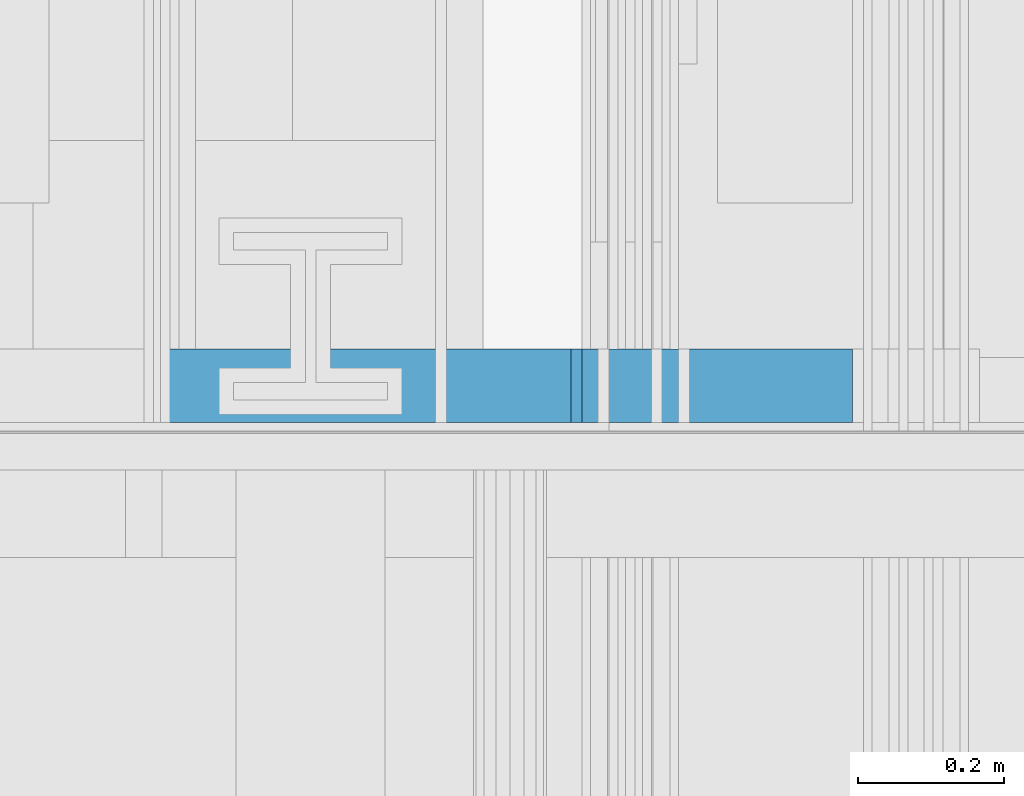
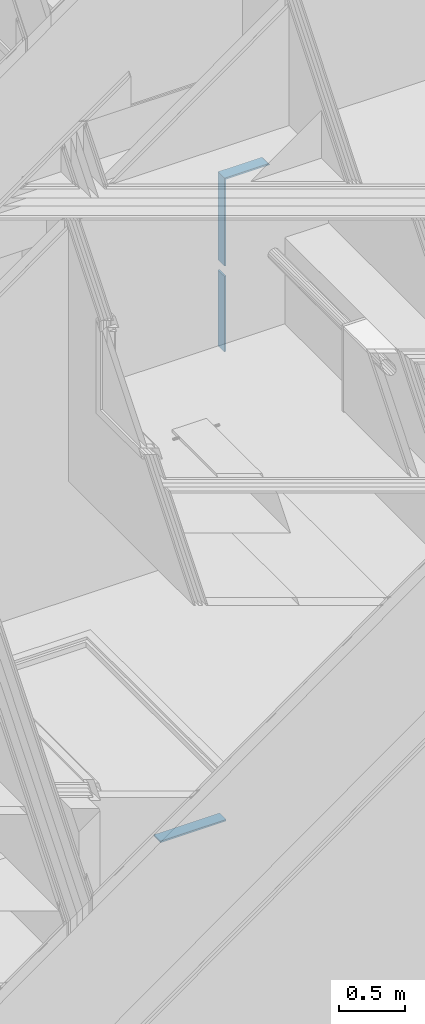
# One storey, part 223 of 583: 4 building element parts, 3 elements without a shape of their own.
"""IFC2X3 building model written with IfcOpenShell, lengths in metres."""

from ifc_helpers import new_model, entity, si_unit, converted_unit, derived_unit, money_unit, direction, frame, frame_2d, origin_with_axes, place, context, subcontext, project, spatial, polyline, rectangle, outline, extrude, material, type_object, element, aggregate, save


model = new_model("IFC2X3")

# Units and contexts
model_context = context("Model", 3, precision=1e-05, world=origin_with_axes(), true_north=direction((0.0, 1.0)))
body_context = subcontext(model_context, "Body", "Model", "MODEL_VIEW", scale=1.0)
ifc_project = project(units=[si_unit("LENGTHUNIT", "METRE"), si_unit("AREAUNIT", "SQUARE_METRE"), si_unit("VOLUMEUNIT", "CUBIC_METRE"), si_unit("ABSORBEDDOSEUNIT", "GRAY"), si_unit("AMOUNTOFSUBSTANCEUNIT", "MOLE"), si_unit("DOSEEQUIVALENTUNIT", "SIEVERT"), si_unit("ELECTRICCAPACITANCEUNIT", "FARAD"), si_unit("ELECTRICCHARGEUNIT", "COULOMB"), si_unit("ELECTRICCONDUCTANCEUNIT", "SIEMENS"), si_unit("ELECTRICCURRENTUNIT", "AMPERE"), si_unit("ELECTRICRESISTANCEUNIT", "OHM"), si_unit("ELECTRICVOLTAGEUNIT", "VOLT"), si_unit("ENERGYUNIT", "JOULE"), si_unit("FORCEUNIT", "NEWTON"), si_unit("FREQUENCYUNIT", "HERTZ"), si_unit("ILLUMINANCEUNIT", "LUX"), si_unit("INDUCTANCEUNIT", "HENRY"), si_unit("LUMINOUSFLUXUNIT", "LUMEN"), si_unit("LUMINOUSINTENSITYUNIT", "CANDELA"), si_unit("MAGNETICFLUXDENSITYUNIT", "TESLA"), si_unit("MAGNETICFLUXUNIT", "WEBER"), si_unit("MASSUNIT", "GRAM"), converted_unit("PLANEANGLEUNIT", "degree", entity("IfcReal", 0.0174532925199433), si_unit("PLANEANGLEUNIT", "RADIAN"), dimensions=[0, 0, 0, 0, 0, 0, 0]), si_unit("POWERUNIT", "WATT"), si_unit("PRESSUREUNIT", "PASCAL"), si_unit("RADIOACTIVITYUNIT", "BECQUEREL"), si_unit("SOLIDANGLEUNIT", "STERADIAN"), si_unit("THERMODYNAMICTEMPERATUREUNIT", "KELVIN"), si_unit("TIMEUNIT", "SECOND"), derived_unit("ACCELERATIONUNIT", [(si_unit("LENGTHUNIT", "METRE"), 1), (si_unit("TIMEUNIT", "SECOND"), -2)]), derived_unit("ANGULARVELOCITYUNIT", [(converted_unit("PLANEANGLEUNIT", "degree", entity("IfcReal", 0.0174532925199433), si_unit("PLANEANGLEUNIT", "RADIAN"), dimensions=[0, 0, 0, 0, 0, 0, 0]), 1), (si_unit("TIMEUNIT", "SECOND"), -1)]), derived_unit("CURVATUREUNIT", [(converted_unit("PLANEANGLEUNIT", "degree", entity("IfcReal", 0.0174532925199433), si_unit("PLANEANGLEUNIT", "RADIAN"), dimensions=[0, 0, 0, 0, 0, 0, 0]), 1), (si_unit("LENGTHUNIT", "METRE"), -1)]), derived_unit("DYNAMICVISCOSITYUNIT", [(si_unit("PRESSUREUNIT", "PASCAL"), 1), (si_unit("TIMEUNIT", "SECOND"), 1)]), derived_unit("HEATFLUXDENSITYUNIT", [(si_unit("POWERUNIT", "WATT"), 1), (si_unit("LENGTHUNIT", "METRE"), -2)]), derived_unit("HEATINGVALUEUNIT", [(si_unit("ENERGYUNIT", "JOULE"), 1), (si_unit("MASSUNIT", "GRAM"), -1)]), derived_unit("INTEGERCOUNTRATEUNIT", [(si_unit("TIMEUNIT", "SECOND"), -1)]), derived_unit("IONCONCENTRATIONUNIT", [(si_unit("MASSUNIT", "GRAM"), 1), (si_unit("VOLUMEUNIT", "CUBIC_METRE"), -1)]), derived_unit("ISOTHERMALMOISTURECAPACITYUNIT", [(si_unit("VOLUMEUNIT", "CUBIC_METRE"), 1), (si_unit("MASSUNIT", "GRAM"), -1)]), derived_unit("KINEMATICVISCOSITYUNIT", [(si_unit("AREAUNIT", "SQUARE_METRE"), 1), (si_unit("TIMEUNIT", "SECOND"), -1)]), derived_unit("LINEARFORCEUNIT", [(si_unit("FORCEUNIT", "NEWTON"), 1), (si_unit("LENGTHUNIT", "METRE"), -1)]), derived_unit("LINEARMOMENTUNIT", [(si_unit("FORCEUNIT", "NEWTON"), 1), (si_unit("LENGTHUNIT", "METRE"), -1)]), derived_unit("LINEARSTIFFNESSUNIT", [(si_unit("FORCEUNIT", "NEWTON"), 1), (si_unit("LENGTHUNIT", "METRE"), -1)]), derived_unit("LINEARVELOCITYUNIT", [(si_unit("LENGTHUNIT", "METRE"), 1), (si_unit("TIMEUNIT", "SECOND"), -1)]), derived_unit("LUMINOUSINTENSITYDISTRIBUTIONUNIT", [(si_unit("LUMINOUSINTENSITYUNIT", "CANDELA"), 1), (si_unit("LUMINOUSFLUXUNIT", "LUMEN"), -1)]), derived_unit("MASSDENSITYUNIT", [(si_unit("MASSUNIT", "GRAM"), 1), (si_unit("VOLUMEUNIT", "CUBIC_METRE"), -1)]), derived_unit("MASSFLOWRATEUNIT", [(si_unit("MASSUNIT", "GRAM"), 1), (si_unit("TIMEUNIT", "SECOND"), -1)]), derived_unit("MASSPERLENGTHUNIT", [(si_unit("MASSUNIT", "GRAM"), 1), (si_unit("LENGTHUNIT", "METRE"), -1)]), derived_unit("MODULUSOFELASTICITYUNIT", [(si_unit("FORCEUNIT", "NEWTON"), 1), (si_unit("AREAUNIT", "SQUARE_METRE"), -1)]), derived_unit("MODULUSOFLINEARSUBGRADEREACTIONUNIT", [(si_unit("FORCEUNIT", "NEWTON"), 1), (si_unit("LENGTHUNIT", "METRE"), -2)]), derived_unit("MODULUSOFROTATIONALSUBGRADEREACTIONUNIT", [(si_unit("FORCEUNIT", "NEWTON"), 1), (si_unit("LENGTHUNIT", "METRE"), 1)]), derived_unit("MODULUSOFSUBGRADEREACTIONUNIT", [(si_unit("FORCEUNIT", "NEWTON"), 1), (si_unit("VOLUMEUNIT", "CUBIC_METRE"), -1)]), derived_unit("MOISTUREDIFFUSIVITYUNIT", [(si_unit("VOLUMEUNIT", "CUBIC_METRE"), 1), (si_unit("TIMEUNIT", "SECOND"), -1)]), derived_unit("MOLECULARWEIGHTUNIT", [(si_unit("MASSUNIT", "GRAM"), 1), (si_unit("AMOUNTOFSUBSTANCEUNIT", "MOLE"), -1)]), derived_unit("PLANARFORCEUNIT", [(si_unit("FORCEUNIT", "NEWTON"), 1), (si_unit("LENGTHUNIT", "METRE"), -2)]), derived_unit("ROTATIONALFREQUENCYUNIT", [(si_unit("TIMEUNIT", "SECOND"), -1)]), derived_unit("ROTATIONALMASSUNIT", [(si_unit("MASSUNIT", "GRAM"), 1), (si_unit("LENGTHUNIT", "METRE"), 2)]), derived_unit("ROTATIONALSTIFFNESSUNIT", [(si_unit("FORCEUNIT", "NEWTON"), 1), (si_unit("LENGTHUNIT", "METRE"), 1), (converted_unit("PLANEANGLEUNIT", "degree", entity("IfcReal", 0.0174532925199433), si_unit("PLANEANGLEUNIT", "RADIAN"), dimensions=[0, 0, 0, 0, 0, 0, 0]), -1)]), derived_unit("SECTIONAREAINTEGRALUNIT", [(si_unit("LENGTHUNIT", "METRE"), 5)]), derived_unit("SECTIONMODULUSUNIT", [(si_unit("LENGTHUNIT", "METRE"), 3)]), derived_unit("SHEARMODULUSUNIT", [(si_unit("FORCEUNIT", "NEWTON"), 1), (si_unit("AREAUNIT", "SQUARE_METRE"), -1)]), derived_unit("SOUNDPOWERUNIT", [(si_unit("ENERGYUNIT", "JOULE"), 1), (si_unit("TIMEUNIT", "SECOND"), -1)]), derived_unit("SPECIFICHEATCAPACITYUNIT", [(si_unit("FORCEUNIT", "NEWTON"), 1), (si_unit("MASSUNIT", "GRAM"), -1), (si_unit("THERMODYNAMICTEMPERATUREUNIT", "KELVIN"), -1)]), derived_unit("TEMPERATUREGRADIENTUNIT", [(si_unit("THERMODYNAMICTEMPERATUREUNIT", "KELVIN"), 1), (si_unit("LENGTHUNIT", "METRE"), -1)]), derived_unit("THERMALADMITTANCEUNIT", [(si_unit("POWERUNIT", "WATT"), 1), (si_unit("AREAUNIT", "SQUARE_METRE"), -1), (si_unit("THERMODYNAMICTEMPERATUREUNIT", "KELVIN"), -1)]), derived_unit("THERMALCONDUCTANCEUNIT", [(si_unit("POWERUNIT", "WATT"), 1), (si_unit("LENGTHUNIT", "METRE"), -1), (si_unit("THERMODYNAMICTEMPERATUREUNIT", "KELVIN"), -1)]), derived_unit("THERMALEXPANSIONCOEFFICIENTUNIT", [(si_unit("THERMODYNAMICTEMPERATUREUNIT", "KELVIN"), -1)]), derived_unit("THERMALRESISTANCEUNIT", [(si_unit("AREAUNIT", "SQUARE_METRE"), 1), (si_unit("POWERUNIT", "WATT"), -1)]), derived_unit("THERMALTRANSMITTANCEUNIT", [(si_unit("POWERUNIT", "WATT"), 1), (si_unit("AREAUNIT", "SQUARE_METRE"), -1), (si_unit("THERMODYNAMICTEMPERATUREUNIT", "KELVIN"), -1)]), derived_unit("TORQUEUNIT", [(si_unit("FORCEUNIT", "NEWTON"), 1), (si_unit("LENGTHUNIT", "METRE"), 1)]), derived_unit("VAPORPERMEABILITYUNIT", [(si_unit("MASSUNIT", "GRAM"), 1), (si_unit("TIMEUNIT", "SECOND"), -1)]), derived_unit("VOLUMETRICFLOWRATEUNIT", [(si_unit("VOLUMEUNIT", "CUBIC_METRE"), 1), (si_unit("TIMEUNIT", "SECOND"), -1)]), derived_unit("WARPINGCONSTANTUNIT", [(si_unit("LENGTHUNIT", "METRE"), 6)]), derived_unit("WARPINGMOMENTUNIT", [(si_unit("FORCEUNIT", "NEWTON"), 1), (si_unit("LENGTHUNIT", "METRE"), 2)]), money_unit("GBP")], contexts=[model_context])

# Site, building, storey
site_placement = place(None, origin_with_axes())
site = spatial("IfcSite", under=ifc_project, at=site_placement, Name="Site", CompositionType="ELEMENT")
building_placement = place(site_placement, origin_with_axes())
building = spatial("IfcBuilding", under=site, at=building_placement, Name="Building01", CompositionType="ELEMENT")
storey_placement = place(building_placement, frame((0.0, 0.0, 20.78), z_axis=(0.0, 0.0, 1.0), x_axis=(1.0, 0.0, 0.0)))
storey = spatial("IfcBuildingStorey", under=building, at=storey_placement, Name="RL", CompositionType="ELEMENT", Elevation=20.78)

# Wall, building element part
wall_type_1 = type_object("IfcWallType", Name="SHE_A-Walls_Type06d_ExternalWallInsulation_48mm", PredefinedType="NOTDEFINED")
wall_1_placement = place(storey_placement, frame((14.45, 8.64, -20.51), z_axis=(0.0, 1.0, 0.0), x_axis=(-1.0, 0.0, 0.0)))
wall_1 = element("IfcWall", 1, at=wall_1_placement, inside=storey, type_object=wall_type_1, Name="6D", ObjectType="SHE_A-Walls_Type06d_ExternalWallInsulation_48mm")
ifc_material = material(Name="A_BSUK_Walls_Timber")
building_element_part_1_placement = place(wall_1_placement, origin_with_axes())
building_element_part_1 = element("IfcBuildingElementPart", 2, at=building_element_part_1_placement, material=ifc_material, Name="3", context=body_context, shape_type="SweptSolid", body=[
    extrude(rectangle(XDim=0.015, YDim=0.57567, at=frame_2d((3.107165, 0.0555), x_axis=(0.0, -1.0))), frame((0.0, 0.0, 0.015), z_axis=(0.0, 0.0, 1.0), x_axis=(1.0, 0.0, 0.0)), (0.0, 0.0, 1.0), 0.1),
])
aggregate(wall_1, [building_element_part_1])

wall_type_2 = type_object("IfcWallType", Name="SHE_A-Walls_Type05a_Partition_95mm_tall", PredefinedType="NOTDEFINED")
wall_2_placement = place(storey_placement, frame((11.66567, 8.64, -14.550331), z_axis=(0.0, 1.0, 0.0), x_axis=(1.0, 0.0, 0.0)))
wall_2 = element("IfcWall", 3, at=wall_2_placement, inside=storey, type_object=wall_type_2, Name="5A", ObjectType="SHE_A-Walls_Type05a_Partition_95mm_tall")
building_element_part_2_placement = place(wall_2_placement, origin_with_axes())
building_element_part_2 = element("IfcBuildingElementPart", 4, at=building_element_part_2_placement, material=ifc_material, Name="3", context=body_context, shape_type="SweptSolid", body=[
    extrude(outline(polyline([(0.35, -0.035), (-0.035, -0.035), (-0.05, -0.05), (0.335, -0.05), (0.35, -0.035)])), frame((0.0, 0.0, 0.015), z_axis=(0.0, 0.0, 1.0), x_axis=(1.0, 0.0, 0.0)), (0.0, 0.0, 1.0), 0.1),
])
aggregate(wall_2, [building_element_part_2])

# Wall, building element parts
wall_3_placement = place(storey_placement, frame((11.66567, 8.64, -16.110331), z_axis=(0.0, 1.0, 0.0), x_axis=(0.0, 0.0, 1.0)))
wall_3 = element("IfcWall", 5, at=wall_3_placement, inside=storey, type_object=wall_type_2, Name="5A", ObjectType="SHE_A-Walls_Type05a_Partition_95mm_tall")
placement = place(wall_3_placement, origin_with_axes())
building_element_part_3 = element("IfcBuildingElementPart", 6, at=placement, material=ifc_material, Name="3", context=body_context, shape_type="SweptSolid", body=[
    extrude(rectangle(XDim=0.7, YDim=0.015, at=frame_2d((0.35, -0.0425), x_axis=(-1.0, 0.0))), frame((0.0, 0.0, 0.015), z_axis=(0.0, 0.0, 1.0), x_axis=(1.0, 0.0, 0.0)), (0.0, 0.0, 1.0), 0.1),
])
building_element_part_4 = element("IfcBuildingElementPart", 7, at=placement, material=ifc_material, Name="4", context=body_context, shape_type="SweptSolid", body=[
    extrude(outline(polyline([(1.595, -0.035), (0.795, -0.035), (0.795, -0.05), (1.61, -0.05), (1.595, -0.035)])), frame((0.0, 0.0, 0.015), z_axis=(0.0, 0.0, 1.0), x_axis=(1.0, 0.0, 0.0)), (0.0, 0.0, 1.0), 0.1),
])
aggregate(wall_3, [building_element_part_3, building_element_part_4])

save(model, "model.ifc")
